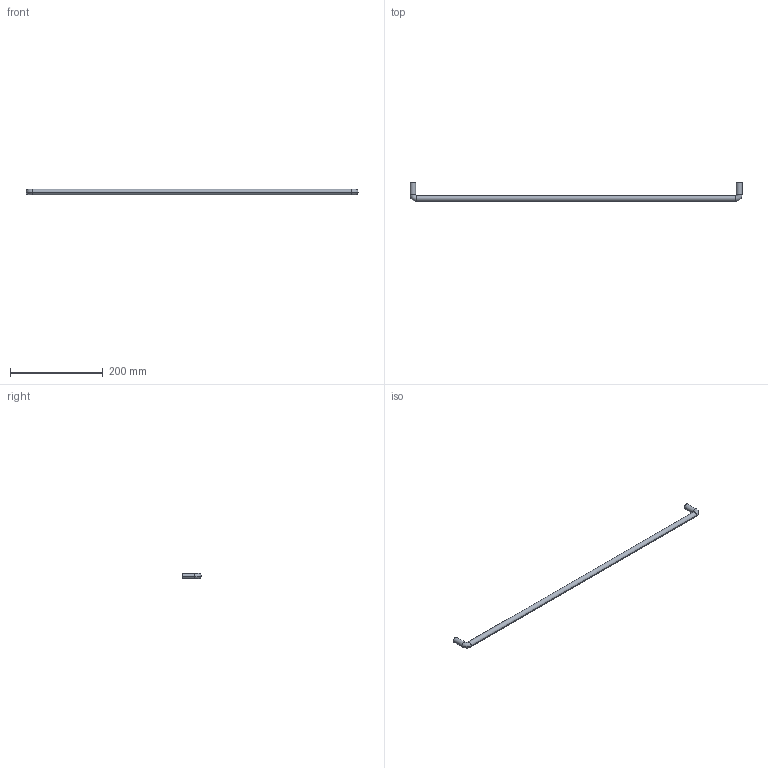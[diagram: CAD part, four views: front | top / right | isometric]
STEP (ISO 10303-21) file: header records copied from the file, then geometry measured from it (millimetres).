
FILE_DESCRIPTION( ( '' ), '1' );
FILE_NAME( 'C:/Documents and Settings/Sachin/Desktop/Sheet 10_1/stp/9070122.stp', '2013-10-22T08:22:16', ( '' ), ( '' ), ' ', ' ', ' ' );
FILE_SCHEMA( ( 'CONFIG_CONTROL_DESIGN' ) );
Length unit declared in the file: millimetre
Products named in the file (1): 1
Bounding box: 716 x 40 x 12 mm (x, y, z)
Volume: 86283.1 mm3; surface area: 29322.3 mm2
Topology: 1 solids, 1 shells, 18 faces, 34 edges, 20 vertices
Faces by surface type: cylinder 10, torus 4, plane 4
Entity records: 502 total; most frequent: DIRECTION 96, CARTESIAN_POINT 73, ORIENTED_EDGE 68, AXIS2_PLACEMENT_3D 43, EDGE_CURVE 34, CIRCLE 24, EDGE_LOOP 20, VERTEX_POINT 20
